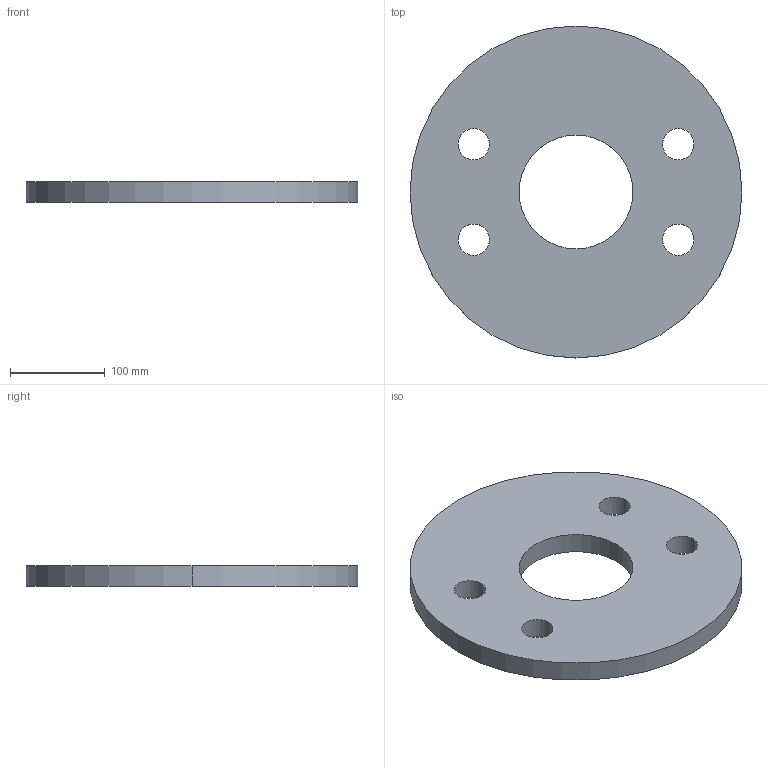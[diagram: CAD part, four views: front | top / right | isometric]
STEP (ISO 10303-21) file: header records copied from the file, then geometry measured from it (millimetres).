
FILE_DESCRIPTION (( 'STEP AP203' ), '1' );
FILE_NAME ('Kreissscheibe M30.STEP', '2018-02-22T05:51:45', ( 'install' ), ( 'Hewlett-Packard Company' ), 'SwSTEP 2.0', 'SolidWorks 2017', '' );
FILE_SCHEMA (( 'CONFIG_CONTROL_DESIGN' ));
Length unit declared in the file: millimetre
Products named in the file (1): Kreissscheibe M30
Bounding box: 350 x 350 x 22 mm (x, y, z)
Volume: 1792567.6 mm3; surface area: 204567.9 mm2
Topology: 1 solids, 1 shells, 14 faces, 36 edges, 24 vertices
Faces by surface type: cylinder 12, plane 2
Entity records: 541 total; most frequent: DIRECTION 90, CARTESIAN_POINT 75, ORIENTED_EDGE 72, AXIS2_PLACEMENT_3D 39, EDGE_CURVE 36, VERTEX_POINT 24, CIRCLE 24, EDGE_LOOP 24
